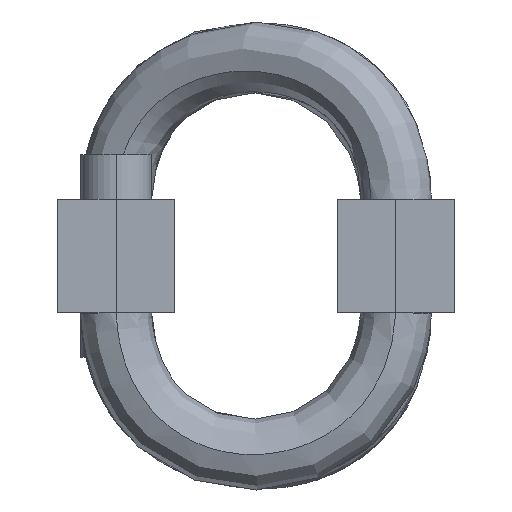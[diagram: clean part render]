
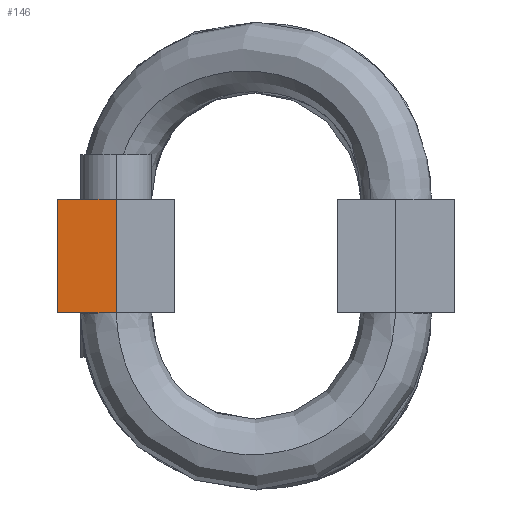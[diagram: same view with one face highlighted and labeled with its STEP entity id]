
A CAD part, left-side view. The second image highlights one B-rep face of the part: STEP entity #146.
In plain terms, the highlighted planar face has unit normal (-1, 0, 0).
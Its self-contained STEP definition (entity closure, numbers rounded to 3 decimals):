
#146 = ADVANCED_FACE ( 'NONE', ( #7399 ), #18745, .T. ) ;
#996 = LINE ( 'NONE', #1929, #16964 ) ;
#1440 = CARTESIAN_POINT ( 'NONE',  ( -260.35, 89., -25.4 ) ) ;
#1929 = CARTESIAN_POINT ( 'NONE',  ( -260.35, 89., -25.4 ) ) ;
#3117 = LINE ( 'NONE', #24140, #11627 ) ;
#3472 = CARTESIAN_POINT ( 'NONE',  ( -260.35, 62.75, -25.4 ) ) ;
#4483 = LINE ( 'NONE', #13873, #40488 ) ;
#4983 = LINE ( 'NONE', #6979, #19938 ) ;
#5946 = EDGE_CURVE ( 'NONE', #23116, #35172, #3117, .T. ) ;
#6979 = CARTESIAN_POINT ( 'NONE',  ( -260.35, 62.75, -25.4 ) ) ;
#7399 = FACE_OUTER_BOUND ( 'NONE', #25980, .T. ) ;
#8313 = EDGE_CURVE ( 'NONE', #37761, #21254, #996, .T. ) ;
#11627 = VECTOR ( 'NONE', #30405, 1000. ) ;
#13873 = CARTESIAN_POINT ( 'NONE',  ( -260.35, 89., -25.4 ) ) ;
#16782 = DIRECTION ( 'NONE',  ( 0., 0., 1. ) ) ;
#16964 = VECTOR ( 'NONE', #21056, 1000. ) ;
#18367 = DIRECTION ( 'NONE',  ( -1., 0., 0. ) ) ;
#18526 = AXIS2_PLACEMENT_3D ( 'NONE', #30924, #18367, #16782 ) ;
#18745 = PLANE ( 'NONE',  #18526 ) ;
#19665 = ORIENTED_EDGE ( 'NONE', *, *, #5946, .F. ) ;
#19938 = VECTOR ( 'NONE', #29316, 1000. ) ;
#21056 = DIRECTION ( 'NONE',  ( 0., 1., 0. ) ) ;
#21254 = VERTEX_POINT ( 'NONE', #1440 ) ;
#22098 = ORIENTED_EDGE ( 'NONE', *, *, #8313, .F. ) ;
#23116 = VERTEX_POINT ( 'NONE', #28439 ) ;
#23632 = ORIENTED_EDGE ( 'NONE', *, *, #40324, .F. ) ;
#24140 = CARTESIAN_POINT ( 'NONE',  ( -260.35, 89., 25.4 ) ) ;
#25980 = EDGE_LOOP ( 'NONE', ( #19665, #32074, #22098, #23632 ) ) ;
#28439 = CARTESIAN_POINT ( 'NONE',  ( -260.35, 89., 25.4 ) ) ;
#29316 = DIRECTION ( 'NONE',  ( 0., 0., -1. ) ) ;
#30405 = DIRECTION ( 'NONE',  ( 0., -1., 0. ) ) ;
#30924 = CARTESIAN_POINT ( 'NONE',  ( -260.35, 75.875, 0. ) ) ;
#32074 = ORIENTED_EDGE ( 'NONE', *, *, #32859, .F. ) ;
#32859 = EDGE_CURVE ( 'NONE', #21254, #23116, #4483, .T. ) ;
#35172 = VERTEX_POINT ( 'NONE', #38198 ) ;
#37761 = VERTEX_POINT ( 'NONE', #3472 ) ;
#38198 = CARTESIAN_POINT ( 'NONE',  ( -260.35, 62.75, 25.4 ) ) ;
#39312 = DIRECTION ( 'NONE',  ( 0., 0., 1. ) ) ;
#40324 = EDGE_CURVE ( 'NONE', #35172, #37761, #4983, .T. ) ;
#40488 = VECTOR ( 'NONE', #39312, 1000. ) ;
